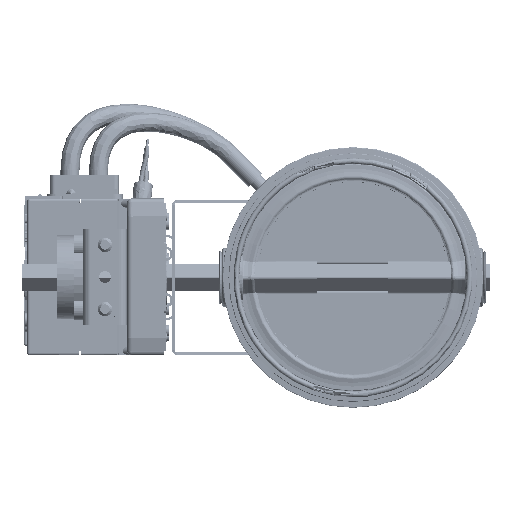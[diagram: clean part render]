
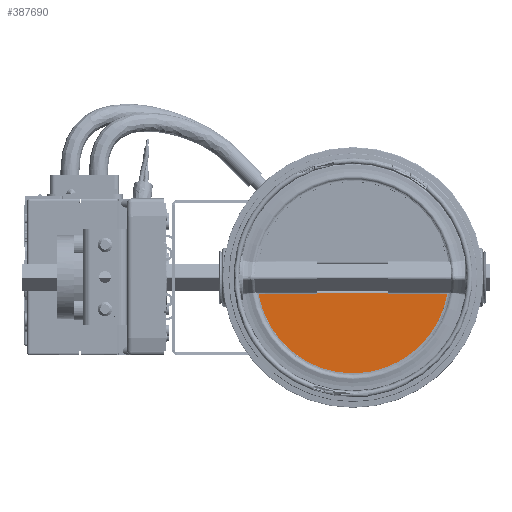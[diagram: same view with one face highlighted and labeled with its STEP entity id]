
A CAD part, left-side view. The second image highlights one B-rep face of the part: STEP entity #387690.
In plain terms, the highlighted planar face has unit normal (-1, 0, 0) as drawn and (0, 0, -1) by its records, which use the part's own axes.
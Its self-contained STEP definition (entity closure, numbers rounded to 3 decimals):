
#2009 = VERTEX_POINT ( 'NONE', #176685 ) ;
#7014 = DIRECTION ( 'NONE',  ( 1., 0., 0. ) ) ;
#9399 = EDGE_LOOP ( 'NONE', ( #258116, #21308, #275659, #289480, #238584, #239396, #332947 ) ) ;
#14479 = DIRECTION ( 'NONE',  ( 0., 0., 1. ) ) ;
#14704 = CARTESIAN_POINT ( 'NONE',  ( 6.985, 0., 0. ) ) ;
#17417 = CARTESIAN_POINT ( 'NONE',  ( 6.571, -14.9, 0. ) ) ;
#21308 = ORIENTED_EDGE ( 'NONE', *, *, #234918, .T. ) ;
#23858 = EDGE_CURVE ( 'NONE', #374621, #160527, #226148, .T. ) ;
#23894 = EDGE_CURVE ( 'NONE', #232692, #2009, #170414, .T. ) ;
#44900 = EDGE_CURVE ( 'NONE', #160527, #2009, #124687, .T. ) ;
#51093 = DIRECTION ( 'NONE',  ( 0., 0., 1. ) ) ;
#59111 = LINE ( 'NONE', #329500, #168061 ) ;
#62694 = FACE_OUTER_BOUND ( 'NONE', #9399, .T. ) ;
#68237 = CARTESIAN_POINT ( 'NONE',  ( 0., -14.9, 0. ) ) ;
#72167 = DIRECTION ( 'NONE',  ( -1., 0., 0. ) ) ;
#78253 = CARTESIAN_POINT ( 'NONE',  ( 40.35, 0., 0. ) ) ;
#84274 = CARTESIAN_POINT ( 'NONE',  ( 6.571, 15., 0. ) ) ;
#88526 = CARTESIAN_POINT ( 'NONE',  ( 6.571, -14.9, 0. ) ) ;
#105702 = VECTOR ( 'NONE', #293621, 1000. ) ;
#109780 = VERTEX_POINT ( 'NONE', #88526 ) ;
#110681 = EDGE_CURVE ( 'NONE', #266891, #232692, #59111, .T. ) ;
#110691 = DIRECTION ( 'NONE',  ( 1., 0., 0. ) ) ;
#118843 = DIRECTION ( 'NONE',  ( 1., 0., 0. ) ) ;
#124687 = CIRCLE ( 'NONE', #130963, 40.35 ) ;
#130963 = AXIS2_PLACEMENT_3D ( 'NONE', #375985, #14479, #135725 ) ;
#135725 = DIRECTION ( 'NONE',  ( 1., 0., 0. ) ) ;
#136582 = CARTESIAN_POINT ( 'NONE',  ( 6.985, -39.741, 0. ) ) ;
#160032 = DIRECTION ( 'NONE',  ( 0., 0., 1. ) ) ;
#160527 = VERTEX_POINT ( 'NONE', #78253 ) ;
#161649 = LINE ( 'NONE', #68237, #264355 ) ;
#168061 = VECTOR ( 'NONE', #118843, 1000. ) ;
#170414 = LINE ( 'NONE', #194373, #276832 ) ;
#176685 = CARTESIAN_POINT ( 'NONE',  ( 6.985, 39.741, 0. ) ) ;
#190266 = EDGE_CURVE ( 'NONE', #109780, #266891, #230070, .T. ) ;
#194373 = CARTESIAN_POINT ( 'NONE',  ( 6.985, 47.043, 0. ) ) ;
#207614 = VERTEX_POINT ( 'NONE', #236766 ) ;
#217739 = PLANE ( 'NONE',  #318657 ) ;
#226148 = CIRCLE ( 'NONE', #371993, 40.35 ) ;
#227613 = CARTESIAN_POINT ( 'NONE',  ( 6.985, 15., 0. ) ) ;
#230070 = LINE ( 'NONE', #17417, #105702 ) ;
#232692 = VERTEX_POINT ( 'NONE', #227613 ) ;
#234918 = EDGE_CURVE ( 'NONE', #374621, #207614, #253238, .T. ) ;
#236766 = CARTESIAN_POINT ( 'NONE',  ( 6.985, -14.9, 0. ) ) ;
#238584 = ORIENTED_EDGE ( 'NONE', *, *, #110681, .T. ) ;
#239396 = ORIENTED_EDGE ( 'NONE', *, *, #23894, .T. ) ;
#239992 = EDGE_CURVE ( 'NONE', #207614, #109780, #161649, .T. ) ;
#253238 = LINE ( 'NONE', #14704, #376232 ) ;
#257904 = DIRECTION ( 'NONE',  ( 0., 1., 0. ) ) ;
#258116 = ORIENTED_EDGE ( 'NONE', *, *, #23858, .F. ) ;
#259860 = CARTESIAN_POINT ( 'NONE',  ( 0., 0., 0. ) ) ;
#264355 = VECTOR ( 'NONE', #72167, 1000. ) ;
#266891 = VERTEX_POINT ( 'NONE', #84274 ) ;
#275659 = ORIENTED_EDGE ( 'NONE', *, *, #239992, .T. ) ;
#276832 = VECTOR ( 'NONE', #257904, 1000. ) ;
#282992 = DIRECTION ( 'NONE',  ( 0., 1., 0. ) ) ;
#289480 = ORIENTED_EDGE ( 'NONE', *, *, #190266, .T. ) ;
#293621 = DIRECTION ( 'NONE',  ( 0., 1., 0. ) ) ;
#318657 = AXIS2_PLACEMENT_3D ( 'NONE', #342805, #160032, #7014 ) ;
#329500 = CARTESIAN_POINT ( 'NONE',  ( 0., 15., 0. ) ) ;
#332947 = ORIENTED_EDGE ( 'NONE', *, *, #44900, .F. ) ;
#342805 = CARTESIAN_POINT ( 'NONE',  ( 0., 0., 0. ) ) ;
#371993 = AXIS2_PLACEMENT_3D ( 'NONE', #259860, #51093, #110691 ) ;
#374621 = VERTEX_POINT ( 'NONE', #136582 ) ;
#375985 = CARTESIAN_POINT ( 'NONE',  ( 0., 0., 0. ) ) ;
#376232 = VECTOR ( 'NONE', #282992, 1000. ) ;
#387690 = ADVANCED_FACE ( 'NONE', ( #62694 ), #217739, .F. ) ;
